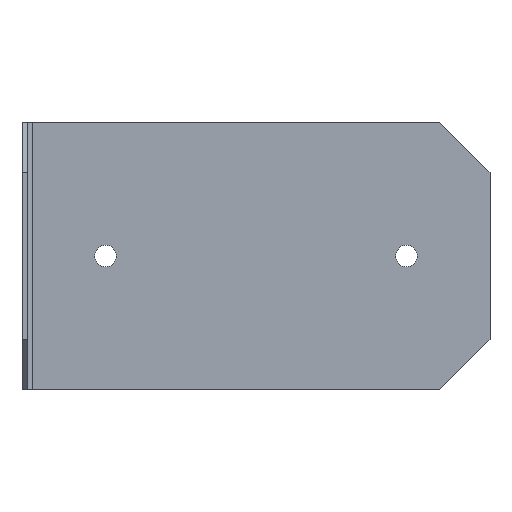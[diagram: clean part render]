
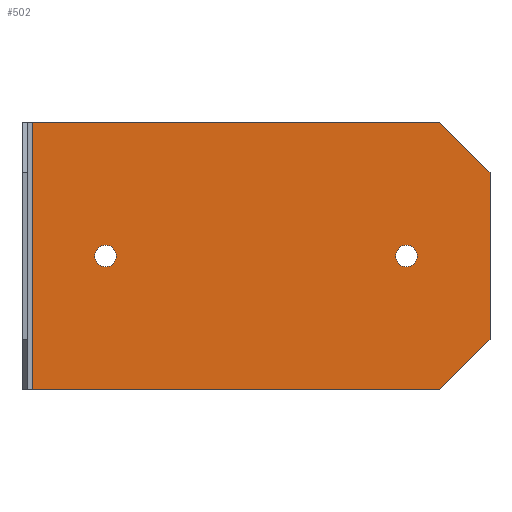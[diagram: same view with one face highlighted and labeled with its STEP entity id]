
A CAD part, top view. The second image highlights one B-rep face of the part: STEP entity #502.
In plain terms, the highlighted planar face has unit normal (0, 0, 1).
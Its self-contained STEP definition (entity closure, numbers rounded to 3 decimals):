
#8 = CARTESIAN_POINT ( 'NONE',  ( 47.5, -47.5, 1.5 ) ) ;
#13 = CARTESIAN_POINT ( 'NONE',  ( -67., 40., 1.5 ) ) ;
#22 = EDGE_CURVE ( 'NONE', #287, #737, #357, .T. ) ;
#25 = DIRECTION ( 'NONE',  ( 1., 0., 0. ) ) ;
#28 = VERTEX_POINT ( 'NONE', #413 ) ;
#37 = VERTEX_POINT ( 'NONE', #463 ) ;
#40 = ORIENTED_EDGE ( 'NONE', *, *, #171, .T. ) ;
#46 = CARTESIAN_POINT ( 'NONE',  ( 45., 0., 1.5 ) ) ;
#48 = CARTESIAN_POINT ( 'NONE',  ( 70., -40., 1.5 ) ) ;
#54 = CARTESIAN_POINT ( 'NONE',  ( -41.75, 0., 1.5 ) ) ;
#58 = LINE ( 'NONE', #8, #489 ) ;
#68 = EDGE_CURVE ( 'NONE', #37, #743, #167, .T. ) ;
#90 = VECTOR ( 'NONE', #584, 1000. ) ;
#105 = FACE_BOUND ( 'NONE', #631, .T. ) ;
#106 = VECTOR ( 'NONE', #657, 1000. ) ;
#108 = DIRECTION ( 'NONE',  ( 1., 0., 0. ) ) ;
#117 = DIRECTION ( 'NONE',  ( 0., 0., 1. ) ) ;
#139 = EDGE_LOOP ( 'NONE', ( #40, #471, #145, #239, #499, #281 ) ) ;
#145 = ORIENTED_EDGE ( 'NONE', *, *, #648, .T. ) ;
#159 = EDGE_CURVE ( 'NONE', #344, #729, #340, .T. ) ;
#167 = CIRCLE ( 'NONE', #274, 3.25 ) ;
#171 = EDGE_CURVE ( 'NONE', #744, #287, #473, .T. ) ;
#196 = ORIENTED_EDGE ( 'NONE', *, *, #278, .F. ) ;
#200 = EDGE_CURVE ( 'NONE', #729, #344, #397, .T. ) ;
#201 = LINE ( 'NONE', #723, #739 ) ;
#212 = CARTESIAN_POINT ( 'NONE',  ( 41.75, 0., 1.5 ) ) ;
#239 = ORIENTED_EDGE ( 'NONE', *, *, #315, .T. ) ;
#253 = DIRECTION ( 'NONE',  ( 0.707, 0.707, 0. ) ) ;
#263 = ORIENTED_EDGE ( 'NONE', *, *, #200, .F. ) ;
#266 = DIRECTION ( 'NONE',  ( 0., 0., 1. ) ) ;
#274 = AXIS2_PLACEMENT_3D ( 'NONE', #46, #625, #108 ) ;
#278 = EDGE_CURVE ( 'NONE', #743, #37, #412, .T. ) ;
#281 = ORIENTED_EDGE ( 'NONE', *, *, #387, .T. ) ;
#282 = VERTEX_POINT ( 'NONE', #730 ) ;
#286 = EDGE_CURVE ( 'NONE', #282, #28, #201, .T. ) ;
#287 = VERTEX_POINT ( 'NONE', #671 ) ;
#290 = FACE_BOUND ( 'NONE', #615, .T. ) ;
#311 = DIRECTION ( 'NONE',  ( 0., -1., 0. ) ) ;
#312 = DIRECTION ( 'NONE',  ( 0., 0., 1. ) ) ;
#315 = EDGE_CURVE ( 'NONE', #395, #282, #374, .T. ) ;
#318 = LINE ( 'NONE', #549, #670 ) ;
#328 = CARTESIAN_POINT ( 'NONE',  ( 45., 0., 1.5 ) ) ;
#340 = CIRCLE ( 'NONE', #352, 3.25 ) ;
#342 = VECTOR ( 'NONE', #311, 1000. ) ;
#344 = VERTEX_POINT ( 'NONE', #54 ) ;
#352 = AXIS2_PLACEMENT_3D ( 'NONE', #428, #312, #588 ) ;
#357 = LINE ( 'NONE', #751, #90 ) ;
#361 = ORIENTED_EDGE ( 'NONE', *, *, #68, .F. ) ;
#374 = LINE ( 'NONE', #543, #342 ) ;
#377 = ORIENTED_EDGE ( 'NONE', *, *, #159, .F. ) ;
#387 = EDGE_CURVE ( 'NONE', #28, #744, #58, .T. ) ;
#395 = VERTEX_POINT ( 'NONE', #13 ) ;
#397 = CIRCLE ( 'NONE', #587, 3.25 ) ;
#412 = CIRCLE ( 'NONE', #490, 3.25 ) ;
#413 = CARTESIAN_POINT ( 'NONE',  ( 55., -40., 1.5 ) ) ;
#425 = CARTESIAN_POINT ( 'NONE',  ( 0., 0., 1.5 ) ) ;
#428 = CARTESIAN_POINT ( 'NONE',  ( -45., 0., 1.5 ) ) ;
#445 = DIRECTION ( 'NONE',  ( 1., 0., 0. ) ) ;
#451 = CARTESIAN_POINT ( 'NONE',  ( -48.25, 0., 1.5 ) ) ;
#457 = AXIS2_PLACEMENT_3D ( 'NONE', #425, #698, #639 ) ;
#463 = CARTESIAN_POINT ( 'NONE',  ( 48.25, 0., 1.5 ) ) ;
#471 = ORIENTED_EDGE ( 'NONE', *, *, #22, .T. ) ;
#473 = LINE ( 'NONE', #48, #106 ) ;
#489 = VECTOR ( 'NONE', #253, 1000. ) ;
#490 = AXIS2_PLACEMENT_3D ( 'NONE', #328, #266, #25 ) ;
#499 = ORIENTED_EDGE ( 'NONE', *, *, #286, .T. ) ;
#502 = ADVANCED_FACE ( 'NONE', ( #290, #105, #665 ), #642, .T. ) ;
#543 = CARTESIAN_POINT ( 'NONE',  ( -67., 0., 1.5 ) ) ;
#549 = CARTESIAN_POINT ( 'NONE',  ( 70., 40., 1.5 ) ) ;
#577 = CARTESIAN_POINT ( 'NONE',  ( 70., -25., 1.5 ) ) ;
#584 = DIRECTION ( 'NONE',  ( -0.707, 0.707, 0. ) ) ;
#587 = AXIS2_PLACEMENT_3D ( 'NONE', #645, #117, #710 ) ;
#588 = DIRECTION ( 'NONE',  ( 1., 0., 0. ) ) ;
#607 = DIRECTION ( 'NONE',  ( -1., 0., 0. ) ) ;
#615 = EDGE_LOOP ( 'NONE', ( #377, #263 ) ) ;
#621 = CARTESIAN_POINT ( 'NONE',  ( 55., 40., 1.5 ) ) ;
#625 = DIRECTION ( 'NONE',  ( 0., 0., 1. ) ) ;
#631 = EDGE_LOOP ( 'NONE', ( #361, #196 ) ) ;
#639 = DIRECTION ( 'NONE',  ( 1., 0., 0. ) ) ;
#642 = PLANE ( 'NONE',  #457 ) ;
#645 = CARTESIAN_POINT ( 'NONE',  ( -45., 0., 1.5 ) ) ;
#648 = EDGE_CURVE ( 'NONE', #737, #395, #318, .T. ) ;
#657 = DIRECTION ( 'NONE',  ( 0., 1., 0. ) ) ;
#665 = FACE_OUTER_BOUND ( 'NONE', #139, .T. ) ;
#670 = VECTOR ( 'NONE', #607, 1000. ) ;
#671 = CARTESIAN_POINT ( 'NONE',  ( 70., 25., 1.5 ) ) ;
#698 = DIRECTION ( 'NONE',  ( 0., 0., 1. ) ) ;
#710 = DIRECTION ( 'NONE',  ( 1., 0., 0. ) ) ;
#723 = CARTESIAN_POINT ( 'NONE',  ( 70., -40., 1.5 ) ) ;
#729 = VERTEX_POINT ( 'NONE', #451 ) ;
#730 = CARTESIAN_POINT ( 'NONE',  ( -67., -40., 1.5 ) ) ;
#737 = VERTEX_POINT ( 'NONE', #621 ) ;
#739 = VECTOR ( 'NONE', #445, 1000. ) ;
#743 = VERTEX_POINT ( 'NONE', #212 ) ;
#744 = VERTEX_POINT ( 'NONE', #577 ) ;
#751 = CARTESIAN_POINT ( 'NONE',  ( 47.5, 47.5, 1.5 ) ) ;
